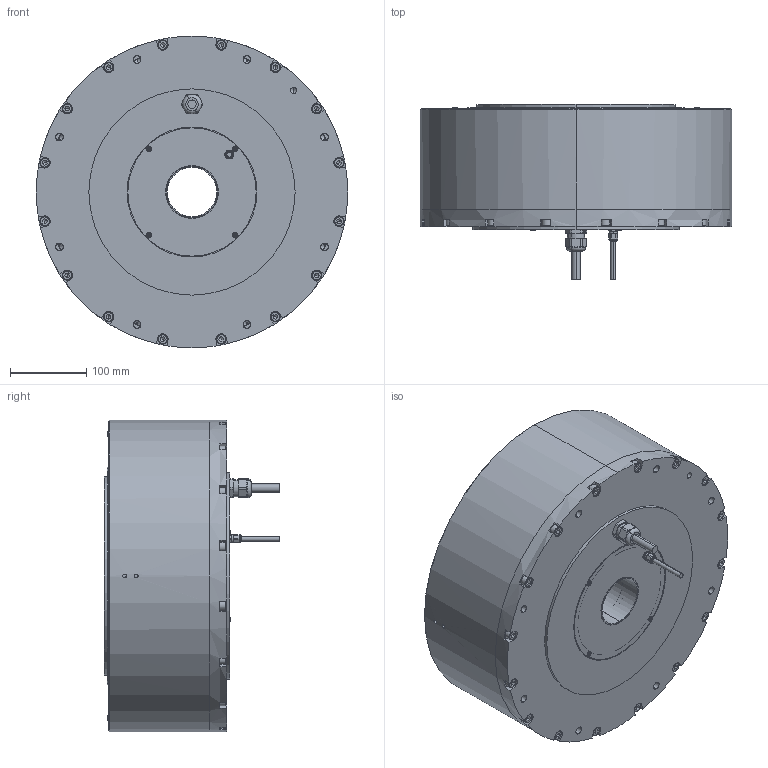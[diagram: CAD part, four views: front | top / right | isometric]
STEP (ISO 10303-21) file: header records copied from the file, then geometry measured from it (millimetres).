
FILE_DESCRIPTION (( 'STEP AP214' ), '1' );
FILE_NAME ('ND400-160-LS(ABS).step', '2025-03-10T08:08:23', ( '' ), ( '' ), 'SwSTEP 2.0', 'SolidWorks 2024', '' );
FILE_SCHEMA (( 'AUTOMOTIVE_DESIGN' ));
Length unit declared in the file: millimetre
Products named in the file (1): ND400-160-LS(ABS)
Bounding box: 408 x 229.3 x 408 mm (x, y, z)
Volume: 6480478.5 mm3; surface area: 1120330.1 mm2
Topology: 48 solids, 48 shells, 1631 faces, 4031 edges, 2456 vertices
Faces by surface type: cylinder 745, plane 414, cone 342, torus 102, sphere 28
Entity records: 50469 total; most frequent: CARTESIAN_POINT 11597, DIRECTION 8355, ORIENTED_EDGE 7686, EDGE_CURVE 3843, AXIS2_PLACEMENT_3D 3364, VERTEX_POINT 2456, EDGE_LOOP 1899, CIRCLE 1732
